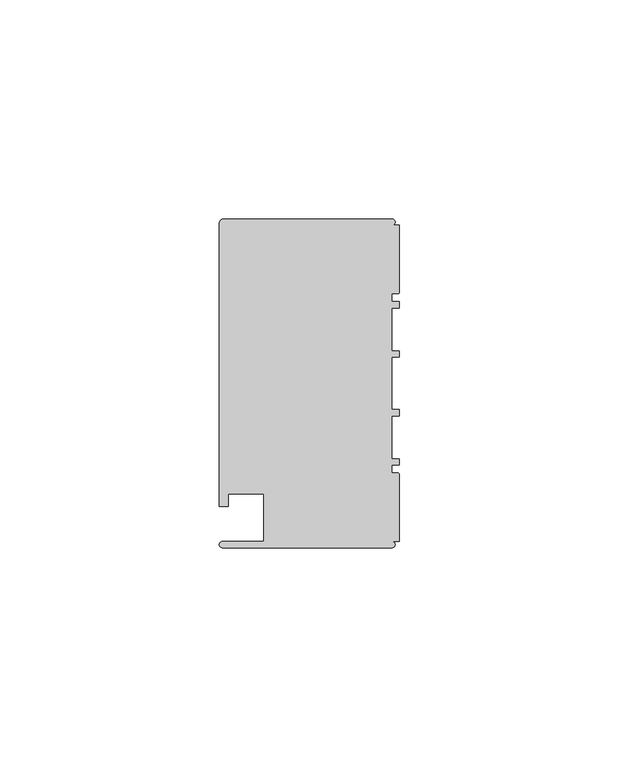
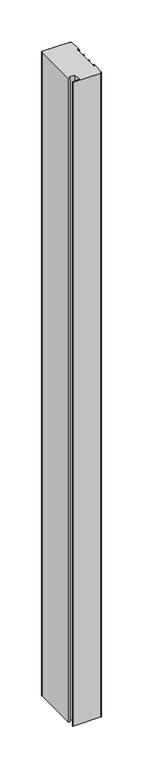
"""IFC4 building model written with IfcOpenShell, lengths in millimetres: member geometry, Прямоугольный импост : 1-AMG-1-Профиль 40Х75 Верх П."""

from ifc_helpers import new_model, si_unit, point, frame, frame_2d, origin, place, context, project, spatial, polyline, circle_curve, trimmed, segment, composite_curve, outline, extrude, source, transform, mapped, element, save


def member_d9a8b494(model_context):
    return source(origin(), model_context, "Body", "SweptSolid", [
        extrude(outline(composite_curve([segment(polyline([(-1.7, -37.5), (-40.4, -37.5)]), True, "CONTINUOUS"), segment(trimmed(circle_curve(frame_2d((-40.4, -36.8)), 0.7), [point((-40.4, -37.5))], [point((-40.4, -36.1))], False, "CARTESIAN"), True, "CONTINUOUS"), segment(polyline([(-40.4, -36.1), (-31.0, -36.1), (-31.0, -25.25), (-39.0, -25.25), (-39.0, -28.1), (-41.1, -28.1), (-41.1, 36.1)]), True, "CONTINUOUS"), segment(trimmed(circle_curve(frame_2d((-39.7541527, 36.3020763)), 1.3609334), [point((-41.1, 36.1))], [point((-40.4, 37.5))], False, "CARTESIAN"), True, "CONTINUOUS"), segment(polyline([(-40.4, 37.5), (-1.7, 37.5)]), True, "CONTINUOUS"), segment(trimmed(circle_curve(frame_2d((-1.7, 36.8)), 0.7), [point((-1.7, 37.5))], [point((-1.7, 36.1))], False, "CARTESIAN"), True, "CONTINUOUS"), segment(polyline([(-1.7, 36.1), (0.0, 36.1), (0.0, 20.95)]), True, "CONTINUOUS"), segment(trimmed(circle_curve(frame_2d((-0.5, 20.95)), 0.5), [point((0.0, 20.95))], [point((-0.5, 20.45))], False, "CARTESIAN"), True, "CONTINUOUS"), segment(polyline([(-0.5, 20.45), (-1.8, 20.45), (-1.8, 18.65), (0.0, 18.65), (0.0, 17.25), (-1.8, 17.25), (-1.8, 7.4), (0.0, 7.4), (0.0, 6.0), (-1.8, 6.0), (-1.8, -6.0), (0.0, -6.0), (0.0, -7.4), (-1.8, -7.4), (-1.8, -17.25), (0.0, -17.25), (0.0, -18.65), (-1.8, -18.65), (-1.8, -20.45), (-0.5, -20.45)]), True, "CONTINUOUS"), segment(trimmed(circle_curve(frame_2d((-0.5, -20.95)), 0.5), [point((-0.5, -20.45))], [point((0.0, -20.95))], False, "CARTESIAN"), True, "CONTINUOUS"), segment(polyline([(0.0, -20.95), (0.0, -36.1), (-1.7, -36.1)]), True, "CONTINUOUS"), segment(trimmed(circle_curve(frame_2d((-1.7, -36.8)), 0.7), [point((-1.7, -36.1))], [point((-1.7, -37.5))], False, "CARTESIAN"), True, "CONTINUOUS")], self_intersect=False)), frame((0.0, 0.0, -943.7304863), z_axis=(0.0, 0.0, 1.0), x_axis=(1.0, 0.0, 0.0)), (0.0, 0.0, 1.0), 943.7304863),
    ])


if __name__ == "__main__":
    model = new_model("IFC4")
    model_context = context("Model", 3, world=origin())
    ifc_project = project(units=[si_unit("LENGTHUNIT", "METRE", prefix="MILLI")], contexts=[model_context])
    site = spatial("IfcSite", under=ifc_project)
    building = spatial("IfcBuilding", under=site)
    placement = place(None, origin())
    member_shape = member_d9a8b494(model_context)
    element("IfcMember", 1, ObjectType="Прямоугольный импост : 1-AMG-1-Профиль 40Х75 Верх П", at=placement, inside=building, context=model_context, shape_type="MappedRepresentation", body=[
        mapped(member_shape, transform((0.0, 0.0, 0.0), x_axis=(1.0, 0.0, 0.0), y_axis=(0.0, 1.0, 0.0), z_axis=(0.0, 0.0, 1.0))),
    ])
    save(model, "model.ifc")
